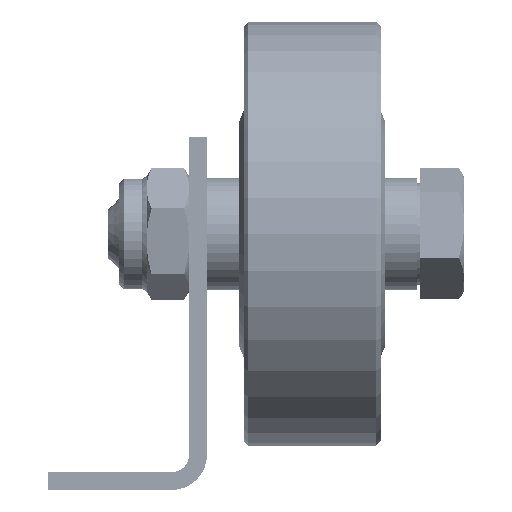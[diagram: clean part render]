
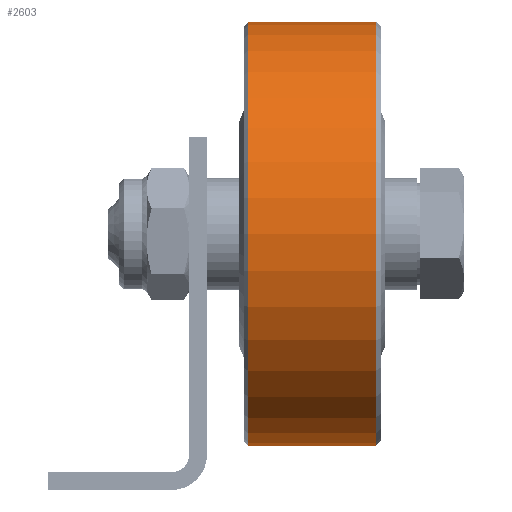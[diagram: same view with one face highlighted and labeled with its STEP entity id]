
A CAD part, front view. The second image highlights one B-rep face of the part: STEP entity #2603.
In plain terms, the highlighted cylindrical face has radius 24 mm (diameter 48 mm), a full revolution.
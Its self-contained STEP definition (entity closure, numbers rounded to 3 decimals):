
#583=CYLINDRICAL_SURFACE('',#3241,24.);
#715=CIRCLE('',#3242,24.);
#716=CIRCLE('',#3243,24.);
#1039=ORIENTED_EDGE('',*,*,#1399,.T.);
#1040=ORIENTED_EDGE('',*,*,#1400,.T.);
#1399=EDGE_CURVE('',#1637,#1637,#715,.F.);
#1400=EDGE_CURVE('',#1638,#1638,#716,.T.);
#1637=VERTEX_POINT('',#4692);
#1638=VERTEX_POINT('',#4694);
#2029=EDGE_LOOP('',(#1039));
#2030=EDGE_LOOP('',(#1040));
#2379=FACE_BOUND('',#2029,.T.);
#2380=FACE_BOUND('',#2030,.T.);
#2603=ADVANCED_FACE('',(#2379,#2380),#583,.T.);
#3241=AXIS2_PLACEMENT_3D('',#4690,#3866,#3867);
#3242=AXIS2_PLACEMENT_3D('',#4691,#3868,#3869);
#3243=AXIS2_PLACEMENT_3D('',#4693,#3870,#3871);
#3866=DIRECTION('',(0.,1.,0.));
#3867=DIRECTION('',(0.,0.,1.));
#3868=DIRECTION('',(0.,1.,0.));
#3869=DIRECTION('',(0.,0.,1.));
#3870=DIRECTION('',(0.,1.,0.));
#3871=DIRECTION('',(0.,0.,1.));
#4690=CARTESIAN_POINT('',(0.,-7.75,0.));
#4691=CARTESIAN_POINT('',(0.,7.25,0.));
#4692=CARTESIAN_POINT('',(0.,7.25,24.));
#4693=CARTESIAN_POINT('',(0.,-7.25,0.));
#4694=CARTESIAN_POINT('',(0.,-7.25,24.));
